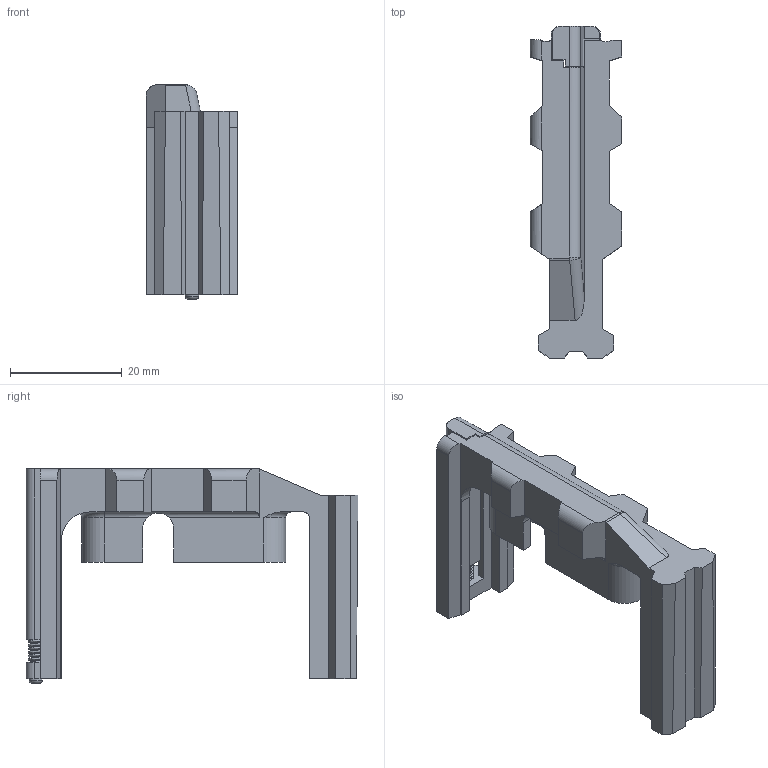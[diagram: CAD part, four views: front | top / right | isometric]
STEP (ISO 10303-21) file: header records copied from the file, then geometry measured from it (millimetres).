
FILE_DESCRIPTION(/* description */ (''),/* implementation_level */ '2;1');
FILE_NAME(/* name */ 'Time-To-Change Mag Clone v8.step',/* time_stamp */ '2023-10-28T20:49:50-07:00',/* author */ (''),/* organization */ (''),/* preprocessor_version */ 'ST-DEVELOPER v20',/* originating_system */ 'Autodesk Translation Framework v12.14.0.127',/* authorisation */ '');
FILE_SCHEMA (('AUTOMOTIVE_DESIGN { 1 0 10303 214 3 1 1 }'));
Length unit declared in the file: millimetre
Products named in the file (5): Time-To-Change Mag Clone; Follower; Bolt stop extention; M2 x 8mm Screw; Spring 0.3x5x10
Assembly tree (4 placements, depth 2):
  Time-To-Change Mag Clone
    Follower
    Bolt stop extention
    M2 x 8mm Screw
    Spring 0.3x5x10
Bounding box: 16.42 x 59.34 x 38.31 mm (x, y, z)
Volume: 9469.7 mm3; surface area: 7277 mm2
Topology: 4 solids, 4 shells, 216 faces, 603 edges, 394 vertices
Faces by surface type: plane 119, cylinder 81, torus 9, bspline 7
Full cylindrical faces by diameter (mm): 1.491 x7, 1.933 x12, 2 x1, 2.4 x1, 3 x1
Entity records: 10850 total; most frequent: CARTESIAN_POINT 5295, ORIENTED_EDGE 1204, DIRECTION 1038, EDGE_CURVE 602, VERTEX_POINT 394, LINE 392, VECTOR 392, AXIS2_PLACEMENT_3D 323
